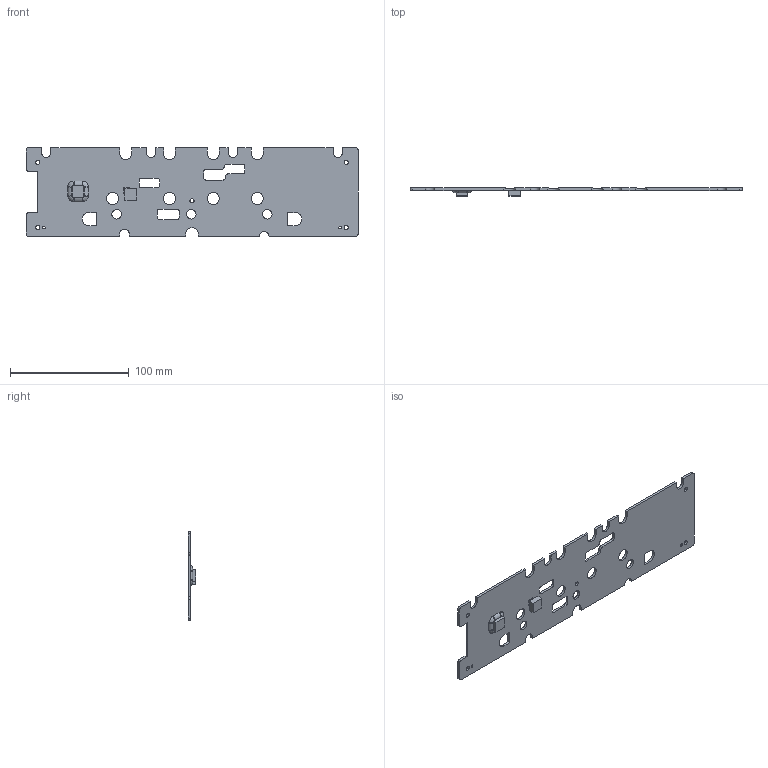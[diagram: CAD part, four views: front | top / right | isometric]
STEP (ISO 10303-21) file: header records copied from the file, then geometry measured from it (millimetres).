
FILE_DESCRIPTION((''),'2;1');
FILE_NAME('HEATSPREADER_AMP_TOP_ASSY_ASM','2020-08-11T',('G6003023'),(''),'PRO/ENGINEER BY PARAMETRIC TECHNOLOGY CORPORATION, 2013150','PRO/ENGINEER BY PARAMETRIC TECHNOLOGY CORPORATION, 2013150','');
FILE_SCHEMA(('CONFIG_CONTROL_DESIGN'));
Length unit declared in the file: millimetre
Products named in the file (4): HEATSPREADER_AMP_TOP; THERMAL_PAD-01_-K5; THERMAL_PAD-02_-K5; HEATSPREADER_AMP_TOP_ASSY_ASM
Assembly tree (3 placements, depth 2):
  HEATSPREADER_AMP_TOP_ASSY_ASM
    HEATSPREADER_AMP_TOP
    THERMAL_PAD-01_-K5
    THERMAL_PAD-02_-K5
Bounding box: 280 x 6.7 x 75 mm (x, y, z)
Volume: 37955.8 mm3; surface area: 40723.6 mm2
Topology: 3 solids, 3 shells, 198 faces, 543 edges, 354 vertices
Faces by surface type: plane 85, cylinder 85, bspline 28
Entity records: 7826 total; most frequent: CARTESIAN_POINT 2691, ORIENTED_EDGE 1086, DIRECTION 1007, EDGE_CURVE 543, VERTEX_POINT 354, AXIS2_PLACEMENT_3D 347, VECTOR 313, LINE 313
